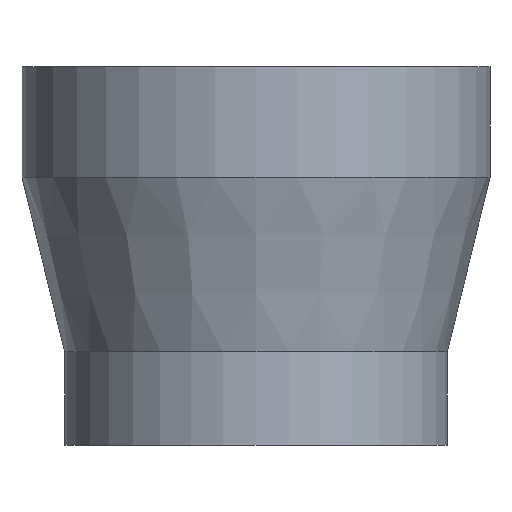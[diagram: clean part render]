
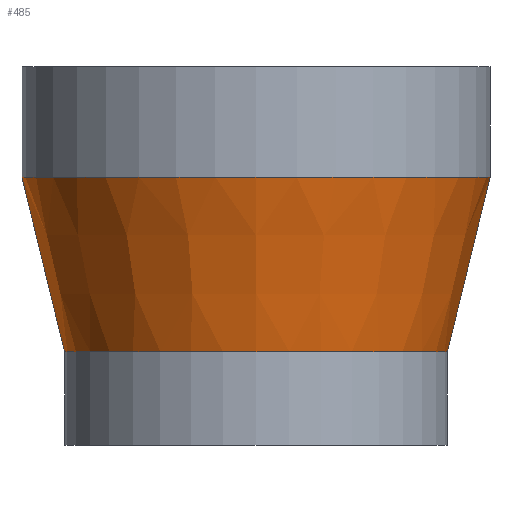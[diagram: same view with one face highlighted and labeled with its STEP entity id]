
A CAD part, front view. The second image highlights one B-rep face of the part: STEP entity #485.
In plain terms, the highlighted conical face has half-angle 13.707 degrees and reference radius 55 mm.
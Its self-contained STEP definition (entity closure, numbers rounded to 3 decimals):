
#10 = VECTOR ( 'NONE', #36, 1000. ) ;
#25 = AXIS2_PLACEMENT_3D ( 'NONE', #413, #417, #418 ) ;
#26 = CIRCLE ( 'NONE', #25, 45. ) ;
#28 = AXIS2_PLACEMENT_3D ( 'NONE', #441, #442, #443 ) ;
#29 = CIRCLE ( 'NONE', #28, 55. ) ;
#36 = DIRECTION ( 'NONE',  ( 0.237, 0., 0.972 ) ) ;
#76 = DIRECTION ( 'NONE',  ( 1., 0., 0. ) ) ;
#79 = FACE_OUTER_BOUND ( 'NONE', #351, .T. ) ;
#80 = DIRECTION ( 'NONE',  ( 0., 0., 1. ) ) ;
#82 = CARTESIAN_POINT ( 'NONE',  ( 0., 0., 63. ) ) ;
#112 = AXIS2_PLACEMENT_3D ( 'NONE', #82, #80, #76 ) ;
#113 = CONICAL_SURFACE ( 'NONE', #112, 55., 0.239 ) ;
#161 = LINE ( 'NONE', #167, #179 ) ;
#167 = CARTESIAN_POINT ( 'NONE',  ( -55., 0., 63. ) ) ;
#179 = VECTOR ( 'NONE', #455, 1000. ) ;
#225 = EDGE_CURVE ( 'NONE', #355, #343, #161, .T. ) ;
#236 = EDGE_CURVE ( 'NONE', #340, #343, #29, .T. ) ;
#237 = EDGE_CURVE ( 'NONE', #355, #339, #26, .T. ) ;
#286 = CARTESIAN_POINT ( 'NONE',  ( -45., 0., 22. ) ) ;
#293 = LINE ( 'NONE', #294, #10 ) ;
#294 = CARTESIAN_POINT ( 'NONE',  ( 55., 0., 63. ) ) ;
#306 = CARTESIAN_POINT ( 'NONE',  ( -55., 0., 63. ) ) ;
#313 = CARTESIAN_POINT ( 'NONE',  ( 55., 0., 63. ) ) ;
#339 = VERTEX_POINT ( 'NONE', #429 ) ;
#340 = VERTEX_POINT ( 'NONE', #313 ) ;
#343 = VERTEX_POINT ( 'NONE', #306 ) ;
#351 = EDGE_LOOP ( 'NONE', ( #364, #365, #366, #367 ) ) ;
#355 = VERTEX_POINT ( 'NONE', #286 ) ;
#364 = ORIENTED_EDGE ( 'NONE', *, *, #225, .F. ) ;
#365 = ORIENTED_EDGE ( 'NONE', *, *, #237, .T. ) ;
#366 = ORIENTED_EDGE ( 'NONE', *, *, #475, .T. ) ;
#367 = ORIENTED_EDGE ( 'NONE', *, *, #236, .T. ) ;
#413 = CARTESIAN_POINT ( 'NONE',  ( 0., 0., 22. ) ) ;
#417 = DIRECTION ( 'NONE',  ( 0., 0., 1. ) ) ;
#418 = DIRECTION ( 'NONE',  ( 1., 0., 0. ) ) ;
#429 = CARTESIAN_POINT ( 'NONE',  ( 45., 0., 22. ) ) ;
#441 = CARTESIAN_POINT ( 'NONE',  ( 0., 0., 63. ) ) ;
#442 = DIRECTION ( 'NONE',  ( 0., 0., -1. ) ) ;
#443 = DIRECTION ( 'NONE',  ( 1., 0., 0. ) ) ;
#455 = DIRECTION ( 'NONE',  ( -0.237, 0., 0.972 ) ) ;
#475 = EDGE_CURVE ( 'NONE', #339, #340, #293, .T. ) ;
#485 = ADVANCED_FACE ( 'NONE', ( #79 ), #113, .T. ) ;
